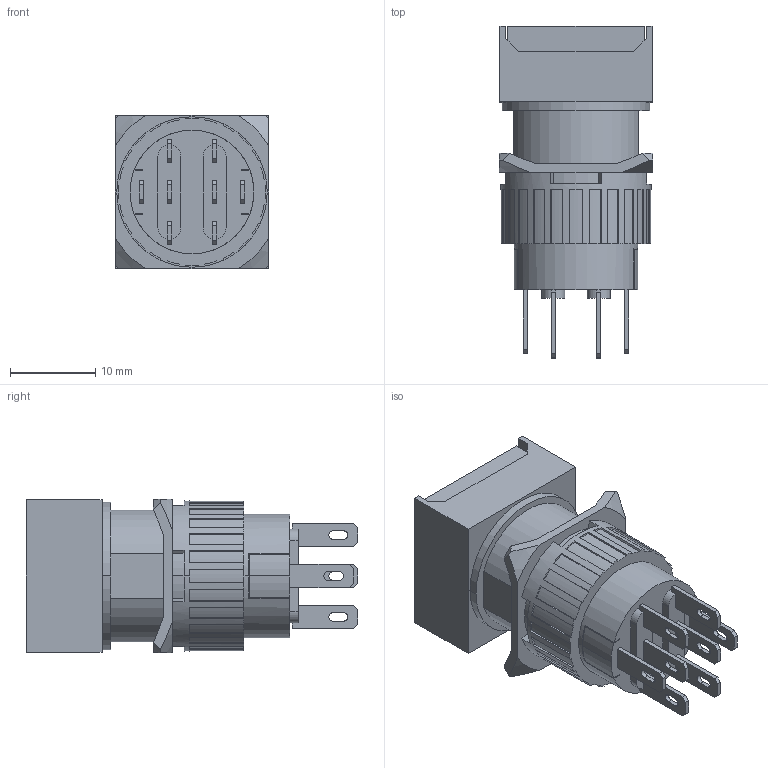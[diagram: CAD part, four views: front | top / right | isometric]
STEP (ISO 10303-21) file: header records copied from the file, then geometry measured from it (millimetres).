
FILE_DESCRIPTION (( 'STEP AP203' ), '1' );
FILE_NAME ('P16-BS.STEP', '2018-02-15T15:22:21', ( '' ), ( '' ), 'SwSTEP 2.0', 'SolidWorks 2012', '' );
FILE_SCHEMA (( 'CONFIG_CONTROL_DESIGN' ));
Length unit declared in the file: millimetre
Products named in the file (1): P16-BS
Bounding box: 18 x 38.9 x 18 mm (x, y, z)
Volume: 7348.5 mm3; surface area: 4128 mm2
Topology: 1 solids, 1 shells, 303 faces, 859 edges, 570 vertices
Faces by surface type: plane 218, cylinder 73, cone 12
Entity records: 9964 total; most frequent: CARTESIAN_POINT 1805, ORIENTED_EDGE 1718, DIRECTION 1665, EDGE_CURVE 859, LINE 613, VECTOR 613, VERTEX_POINT 570, AXIS2_PLACEMENT_3D 526
